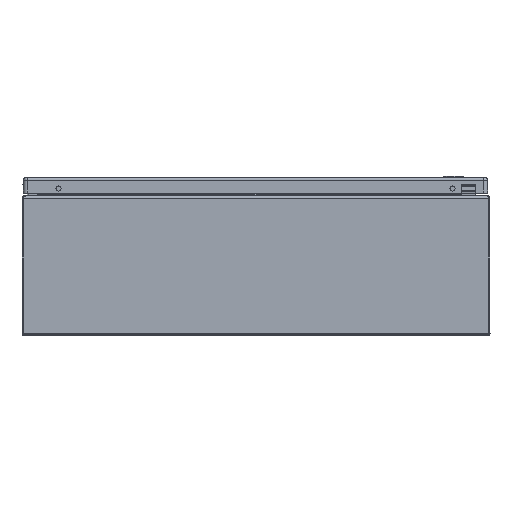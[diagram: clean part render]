
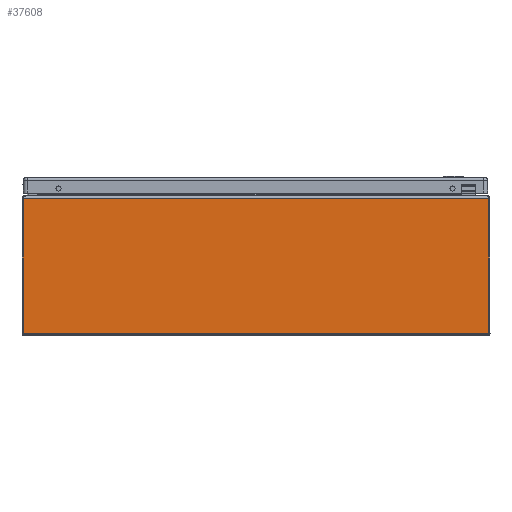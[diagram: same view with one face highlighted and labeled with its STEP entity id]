
A CAD part, front view. The second image highlights one B-rep face of the part: STEP entity #37608.
In plain terms, the highlighted planar face has unit normal (0, -1, 0).
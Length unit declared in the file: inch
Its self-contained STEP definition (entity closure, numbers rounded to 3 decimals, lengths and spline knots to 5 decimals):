
#3072 = EDGE_CURVE ( 'NONE', #23025, #23027, #30029, .T. ) ;
#3115 = EDGE_CURVE ( 'NONE', #22993, #22995, #30084, .T. ) ;
#3125 = EDGE_CURVE ( 'NONE', #23025, #22995, #30113, .T. ) ;
#3248 = FACE_OUTER_BOUND ( 'NONE', #39605, .T. ) ;
#14326 = CARTESIAN_POINT ( 'NONE',  ( 9.94693, -12., 0.097 ) ) ;
#14328 = CARTESIAN_POINT ( 'NONE',  ( 9.94693, -12., 5.859 ) ) ;
#14358 = CARTESIAN_POINT ( 'NONE',  ( -9.94693, -12., 5.859 ) ) ;
#14360 = CARTESIAN_POINT ( 'NONE',  ( -9.94693, -12., 0.097 ) ) ;
#19152 = AXIS2_PLACEMENT_3D ( 'NONE', #28231, #28243, #28244 ) ;
#22993 = VERTEX_POINT ( 'NONE', #14326 ) ;
#22995 = VERTEX_POINT ( 'NONE', #14328 ) ;
#23025 = VERTEX_POINT ( 'NONE', #14358 ) ;
#23027 = VERTEX_POINT ( 'NONE', #14360 ) ;
#24478 = CARTESIAN_POINT ( 'NONE',  ( -130., -12., 0.097 ) ) ;
#24480 = DIRECTION ( 'NONE',  ( 1., 0., 0. ) ) ;
#28231 = CARTESIAN_POINT ( 'NONE',  ( -130., -12., 5.859 ) ) ;
#28238 = PLANE ( 'NONE',  #19152 ) ;
#28243 = DIRECTION ( 'NONE',  ( 0., -1., 0. ) ) ;
#28244 = DIRECTION ( 'NONE',  ( 0., 0., -1. ) ) ;
#30026 = VECTOR ( 'NONE', #34247, 39.37008 ) ;
#30029 = LINE ( 'NONE', #34243, #30026 ) ;
#30084 = LINE ( 'NONE', #34354, #30094 ) ;
#30094 = VECTOR ( 'NONE', #34355, 39.37008 ) ;
#30113 = LINE ( 'NONE', #34374, #30114 ) ;
#30114 = VECTOR ( 'NONE', #34375, 39.37008 ) ;
#34243 = CARTESIAN_POINT ( 'NONE',  ( -9.94693, -12., 5.859 ) ) ;
#34247 = DIRECTION ( 'NONE',  ( 0., 0., -1. ) ) ;
#34354 = CARTESIAN_POINT ( 'NONE',  ( 9.94693, -12., 5.859 ) ) ;
#34355 = DIRECTION ( 'NONE',  ( 0., 0., 1. ) ) ;
#34374 = CARTESIAN_POINT ( 'NONE',  ( -130., -12., 5.859 ) ) ;
#34375 = DIRECTION ( 'NONE',  ( 1., 0., 0. ) ) ;
#35773 = ORIENTED_EDGE ( 'NONE', *, *, #3115, .T. ) ;
#35775 = ORIENTED_EDGE ( 'NONE', *, *, #3125, .F. ) ;
#35777 = ORIENTED_EDGE ( 'NONE', *, *, #3072, .T. ) ;
#35779 = ORIENTED_EDGE ( 'NONE', *, *, #42224, .T. ) ;
#37608 = ADVANCED_FACE ( 'NONE', ( #3248 ), #28238, .T. ) ;
#39605 = EDGE_LOOP ( 'NONE', ( #35773, #35775, #35777, #35779 ) ) ;
#41946 = LINE ( 'NONE', #24478, #41947 ) ;
#41947 = VECTOR ( 'NONE', #24480, 39.37008 ) ;
#42224 = EDGE_CURVE ( 'NONE', #23027, #22993, #41946, .T. ) ;
